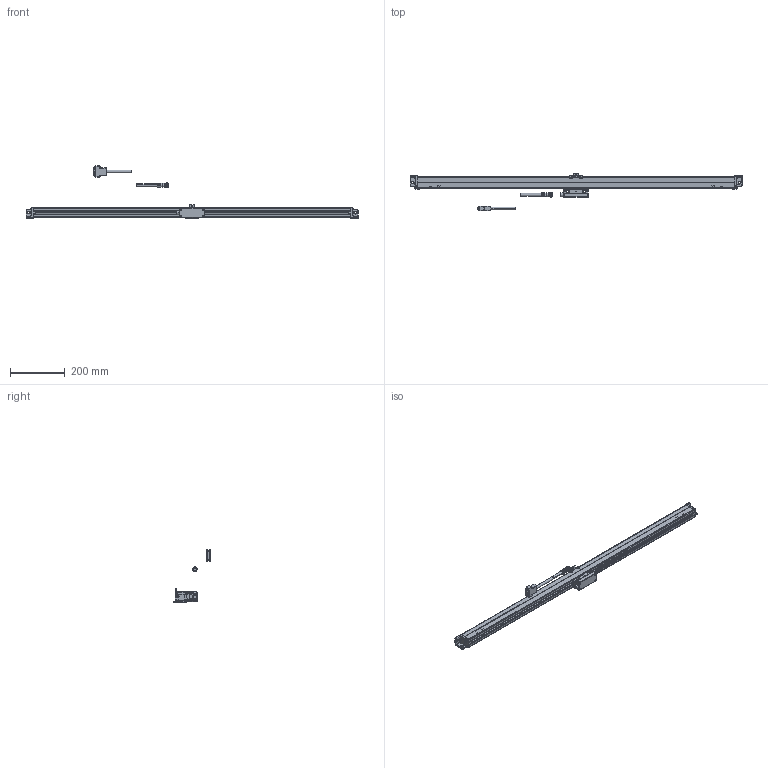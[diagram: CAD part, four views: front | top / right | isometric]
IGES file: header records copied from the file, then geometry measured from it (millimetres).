
Start section: Elysium IGES Interface
Global section: file name: 75H\\Utsu119s\kiyo_cad\data\3D\AT103\HP掲載用_201710\IGES\AT103_AT203-1000.igs; native system: Creo Elements/Direct Modeling 18.1B  29-Sep-2012; preprocessor: Creo Element/Direct IGES_3D V2.2; author: Unknown; organization: Unknown; date: 20180105.143257; units: millimetre
Bounding box: 1208 x 136.5 x 190.1 mm (x, y, z)
Volume: 3668472.6 mm3; surface area: 492475.5 mm2
Topology: 5 solids, 9 shells, 1783 faces, 4532 edges, 2815 vertices
Faces by surface type: bspline 1783
